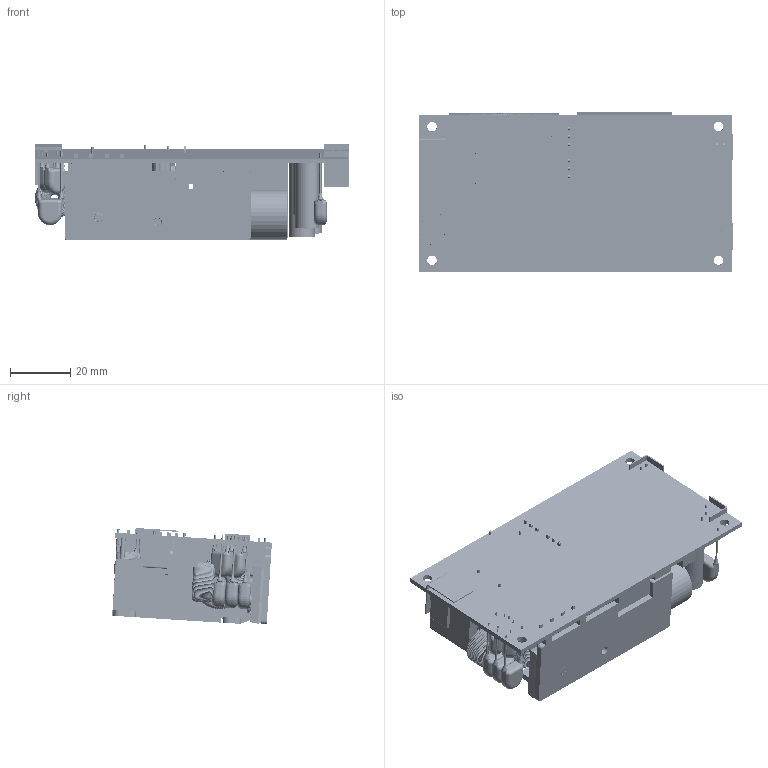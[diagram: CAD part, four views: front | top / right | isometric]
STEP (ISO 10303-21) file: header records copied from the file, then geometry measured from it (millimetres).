
FILE_DESCRIPTION(/* description */ (''),/* implementation_level */ '2;1');
FILE_NAME(/* name */ 'D:\Inventor\MQC150_MQF240\MQF240O.stp',/* time_stamp */ '2020-06-02T15:18:05+08:00',/* author */ ('peter'),/* organization */ (''),/* preprocessor_version */ 'ST-DEVELOPER v15.2',/* originating_system */ 'Autodesk Inventor 2014',/* authorisation */ '');
FILE_SCHEMA (('AUTOMOTIVE_DESIGN { 1 0 10303 214 3 1 1 }'));
Products named in the file (26): PCB _ MQF240; R378MQF24001; BD1; TO-220; SCREW PH M3_5mm; SCREW PH M3_6mm; TW-1; X1; R378MQF24002; TO-220FP; X2; L1; NTC1; NTC1 _ 10mm; Y - C; Y - C 1; VR; 2r5 mm - 2P; L2; 2S+1 PIN; MYLAR _ R380MMQC15001; MYLAR _ 12.5x12.5x9 mm L TYPE; PCB-10AM4; PCB-10BM4; MQF240O
Bounding box: 104.43 x 53.08 x 31.92 mm (x, y, z)
Volume: 92560.2 mm3; surface area: 51367.8 mm2
Topology: 37 solids, 303 shells, 10091 faces, 19143 edges, 9192 vertices
Faces by surface type: torus 4234, cylinder 3943, plane 1512, bspline 345, cone 57
Full cylindrical faces by diameter (mm): 0.45 x3, 0.5 x1, 0.6 x18, 0.8 x4, 1.553 x2, 1.6 x1, 1.85 x2, 2.5 x5, 3 x11, 3.2 x7, 3.242 x2, 3.6 x1, 3.85 x1, 4 x4, 5.8 x4, 6 x1, 6.441 x1, 7.488 x1, 7.847 x1, 7.879 x1, 8.756 x1, 10.169 x1, 16.5 x1
Entity records: 191179 total; most frequent: CARTESIAN_POINT 47752, DIRECTION 31582, ORIENTED_EDGE 28702, AXIS2_PLACEMENT_3D 14045, EDGE_CURVE 12963, EDGE_LOOP 7050, ADVANCED_FACE 6837, FACE_OUTER_BOUND 6806
